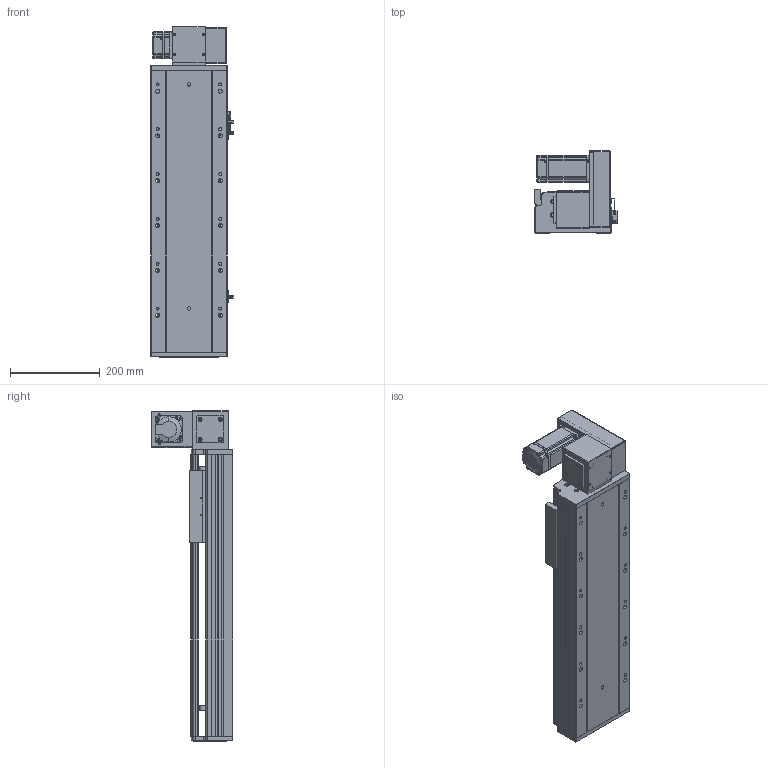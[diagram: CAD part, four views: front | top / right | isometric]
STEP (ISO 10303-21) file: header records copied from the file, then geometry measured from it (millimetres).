
FILE_DESCRIPTION (( 'STEP AP203' ), '1' );
FILE_NAME ('RY170-T-300-UR-P400W.SLDASM_350.step', '2021-03-01T09:26:51', ( '盈信电脑' ), ( '东莞市道滘镇水果街19号' ), 'SwSTEP 2.0', 'SolidWorks 2012', '' );
FILE_SCHEMA (( 'CONFIG_CONTROL_DESIGN' ));
Products named in the file (18): RY170-T-300-UR-P400W.SLDASM_350; 15; 滅袉蝶18-10; RY120-T主同步轮轴承压盖; RY170-T蹟翐M4; RY170-T肮祭謫裔啣; RY170-T肮祭湍揤踡輸2; RY170同步轮电机安装板(400W); RY170肮祭謫萇儂欶; RY170-T肮祭湍揤踡輸1; RY170翋肮祭謫釱; 覜茼ん672; RY170外置感应片(200共用）; RY170肮祭謫ヶ裔啣; RY170肮祭湍臏賑輸; RY170-T-300肮祭謫倰第裔啣-DR_350; RY170綴裔啣; RY170-T-300肮祭謫倰第菁釱-DR_350
Assembly tree (22 placements, depth 2):
  RY170-T-300-UR-P400W.SLDASM_350
    RY170-T-300肮祭謫倰第菁釱-DR_350
    RY170肮祭湍臏賑輸
    RY170-T-300肮祭謫倰第裔啣-DR_350
    RY170綴裔啣
    覜茼ん672  x3
    RY170外置感应片(200共用）
    RY170肮祭謫ヶ裔啣
    RY170翋肮祭謫釱
    RY170同步轮电机安装板(400W)
    RY170肮祭謫萇儂欶
    RY170-T肮祭湍揤踡輸1  x2
    RY170-T肮祭湍揤踡輸2  x2
    RY120-T主同步轮轴承压盖
    RY170-T肮祭謫裔啣
    RY170-T蹟翐M4
    滅袉蝶18-10  x2
    15
Bounding box: 183.7 x 182 x 738 mm (x, y, z)
Volume: 4200406.3 mm3; surface area: 1386322 mm2
Topology: 22 solids, 22 shells, 2628 faces, 7266 edges, 4689 vertices
Faces by surface type: plane 1258, cylinder 1144, cone 196, bspline 30
Entity records: 77592 total; most frequent: CARTESIAN_POINT 16953, ORIENTED_EDGE 12320, DIRECTION 12156, EDGE_CURVE 6160, AXIS2_PLACEMENT_3D 4242, VERTEX_POINT 4045, VECTOR 3672, LINE 3672
